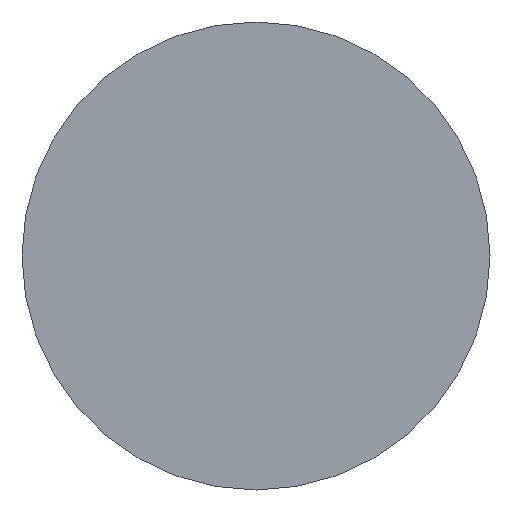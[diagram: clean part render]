
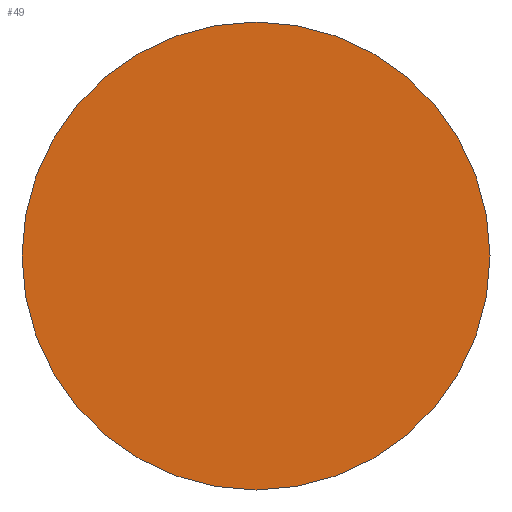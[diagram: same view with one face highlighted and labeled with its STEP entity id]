
A CAD part, front view. The second image highlights one B-rep face of the part: STEP entity #49.
In plain terms, the highlighted planar face has unit normal (0, -1, 0).
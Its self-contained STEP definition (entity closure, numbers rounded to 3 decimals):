
#15=PLANE('',#58);
#23=FACE_OUTER_BOUND('',#29,.T.);
#29=EDGE_LOOP('',(#44));
#32=CIRCLE('',#56,20.75);
#35=VERTEX_POINT('',#82);
#38=EDGE_CURVE('',#35,#35,#32,.T.);
#44=ORIENTED_EDGE('',*,*,#38,.F.);
#49=ADVANCED_FACE('',(#23),#15,.T.);
#56=AXIS2_PLACEMENT_3D('',#83,#69,#70);
#58=AXIS2_PLACEMENT_3D('',#85,#73,#74);
#69=DIRECTION('center_axis',(0.,1.,0.));
#70=DIRECTION('ref_axis',(1.,0.,0.));
#73=DIRECTION('center_axis',(0.,-1.,0.));
#74=DIRECTION('ref_axis',(0.,0.,-1.));
#82=CARTESIAN_POINT('',(-20.75,0.,0.));
#83=CARTESIAN_POINT('Origin',(0.,0.,0.));
#85=CARTESIAN_POINT('Origin',(-20.75,0.,0.));
